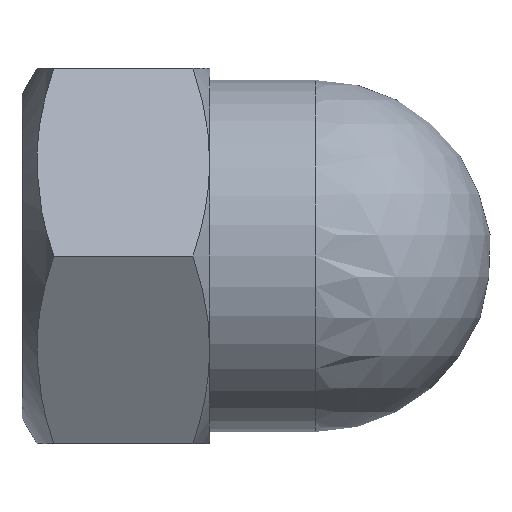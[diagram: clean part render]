
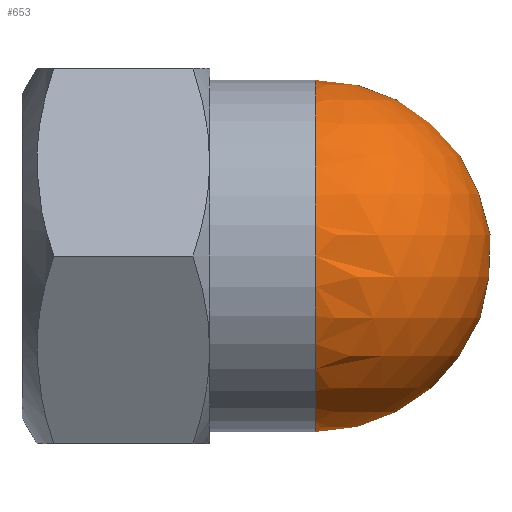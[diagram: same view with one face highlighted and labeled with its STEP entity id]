
A CAD part, front view. The second image highlights one B-rep face of the part: STEP entity #653.
In plain terms, the highlighted spherical face has radius 3.75 mm.
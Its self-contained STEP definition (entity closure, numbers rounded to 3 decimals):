
#622=CARTESIAN_POINT('',(6.25,3.75,0.0));
#623=VERTEX_POINT('',#622);
#624=CARTESIAN_POINT('',(6.25,0.0,0.0));
#625=DIRECTION('',(1.0,0.0,0.0));
#626=DIRECTION('',(0.0,1.0,0.0));
#627=AXIS2_PLACEMENT_3D('',#624,#625,#626);
#628=CIRCLE('',#627,3.75);
#629=EDGE_CURVE('',#623,#623,#628,.T.);
#645=CARTESIAN_POINT('',(6.25,0.0,0.0));
#646=DIRECTION('',(0.0,0.0,1.0));
#647=DIRECTION('',(1.0,0.0,0.0));
#648=AXIS2_PLACEMENT_3D('',#645,#646,#647);
#649=SPHERICAL_SURFACE('',#648,3.75);
#650=ORIENTED_EDGE('',*,*,#629,.T.);
#651=EDGE_LOOP('',(#650));
#652=FACE_OUTER_BOUND('',#651,.T.);
#653=ADVANCED_FACE('',(#652),#649,.T.);
